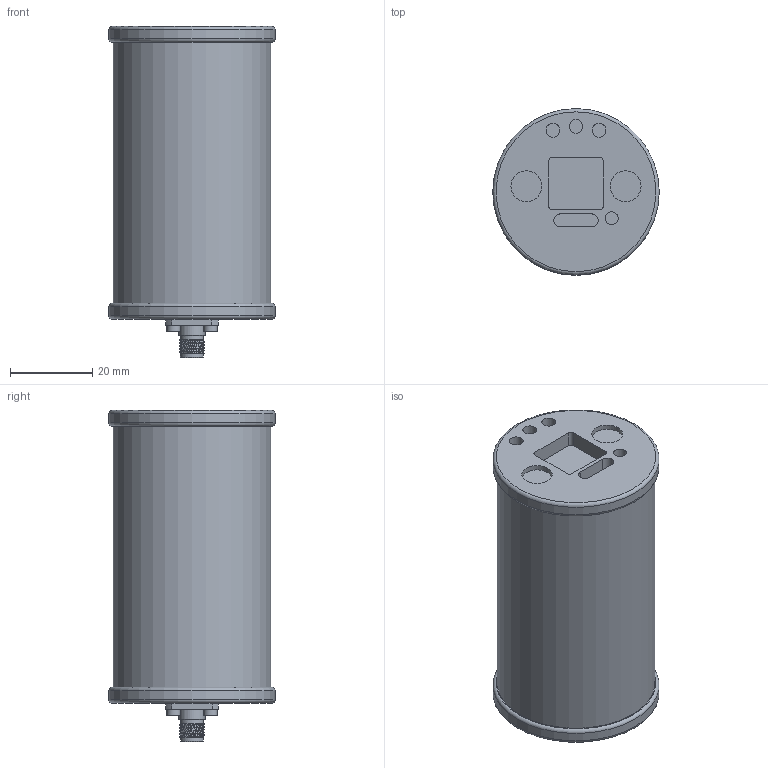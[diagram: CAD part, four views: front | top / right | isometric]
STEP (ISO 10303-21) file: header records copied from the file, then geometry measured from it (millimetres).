
FILE_DESCRIPTION(/* description */ (''),/* implementation_level */ '2;1');
FILE_NAME(/* name */ 'NEW.LB478_479_480_3.5mm_SMA_2.step',/* time_stamp */ '2023-10-13T09:11:26-05:00',/* author */ (''),/* organization */ (''),/* preprocessor_version */ 'ST-DEVELOPER v20',/* originating_system */ 'Autodesk Translation Framework v12.9.0.99',/* authorisation */ '');
FILE_SCHEMA (('AUTOMOTIVE_DESIGN { 1 0 10303 214 3 1 1 }'));
Length unit declared in the file: inch
Products named in the file (2): (Unsaved); SMA F v1
Assembly tree (1 placements, depth 2):
  (Unsaved)
    SMA F v1
Bounding box: 40.44 x 40.44 x 80.47 mm (x, y, z)
Volume: 82562.4 mm3; surface area: 12468.4 mm2
Topology: 2 solids, 2 shells, 101 faces, 249 edges, 169 vertices
Faces by surface type: plane 63, cylinder 29, torus 7, bspline 2
Full cylindrical faces by diameter (mm): 3.175 x1, 3.302 x4, 3.354 x2, 3.365 x1, 4.572 x1, 5.588 x2, 6.35 x1, 7.493 x2, 38.354 x1, 40.437 x2
Entity records: 5179 total; most frequent: CARTESIAN_POINT 2676, DIRECTION 515, ORIENTED_EDGE 498, EDGE_CURVE 249, AXIS2_PLACEMENT_3D 193, VERTEX_POINT 169, LINE 129, VECTOR 129
